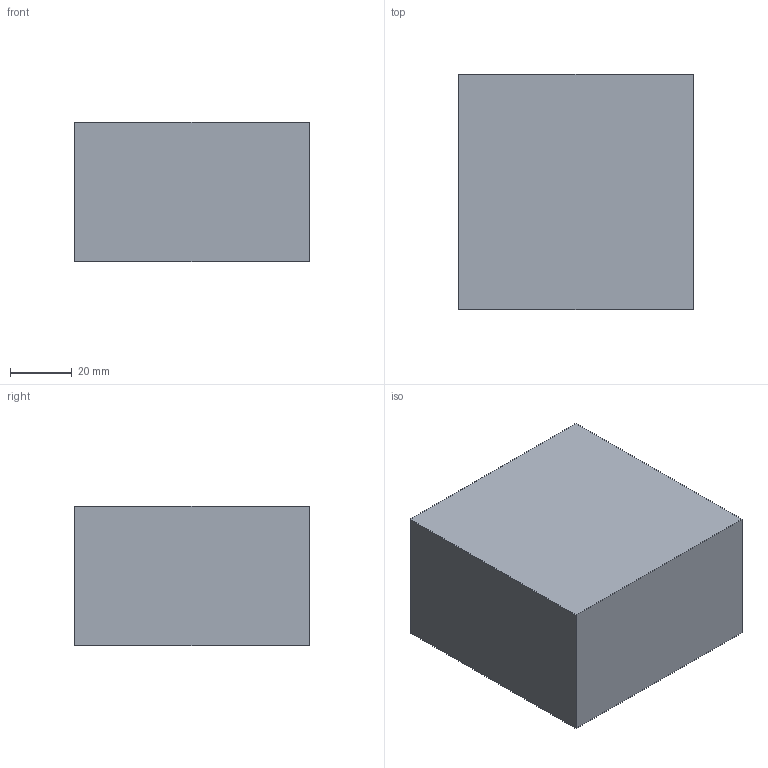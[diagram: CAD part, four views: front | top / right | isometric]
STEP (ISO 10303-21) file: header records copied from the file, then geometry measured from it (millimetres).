
FILE_DESCRIPTION (( 'STEP AP203' ), '1' );
FILE_NAME ('FTPES16.STEP', '2026-06-26T01:19:53', ( 'USER' ), ( '' ), 'SwSTEP 2.0', 'SolidWorks 2023', '' );
FILE_SCHEMA (( 'CONFIG_CONTROL_DESIGN' ));
Length unit declared in the file: millimetre
Products named in the file (1): FTPES16
Bounding box: 76 x 76 x 45 mm (x, y, z)
Volume: 196143.6 mm3; surface area: 33310.7 mm2
Topology: 1 solids, 1 shells, 34 faces, 72 edges, 42 vertices
Faces by surface type: cone 12, cylinder 12, plane 10
Entity records: 985 total; most frequent: CARTESIAN_POINT 173, DIRECTION 166, ORIENTED_EDGE 144, EDGE_CURVE 72, AXIS2_PLACEMENT_3D 67, VERTEX_POINT 42, EDGE_LOOP 38, ADVANCED_FACE 34
